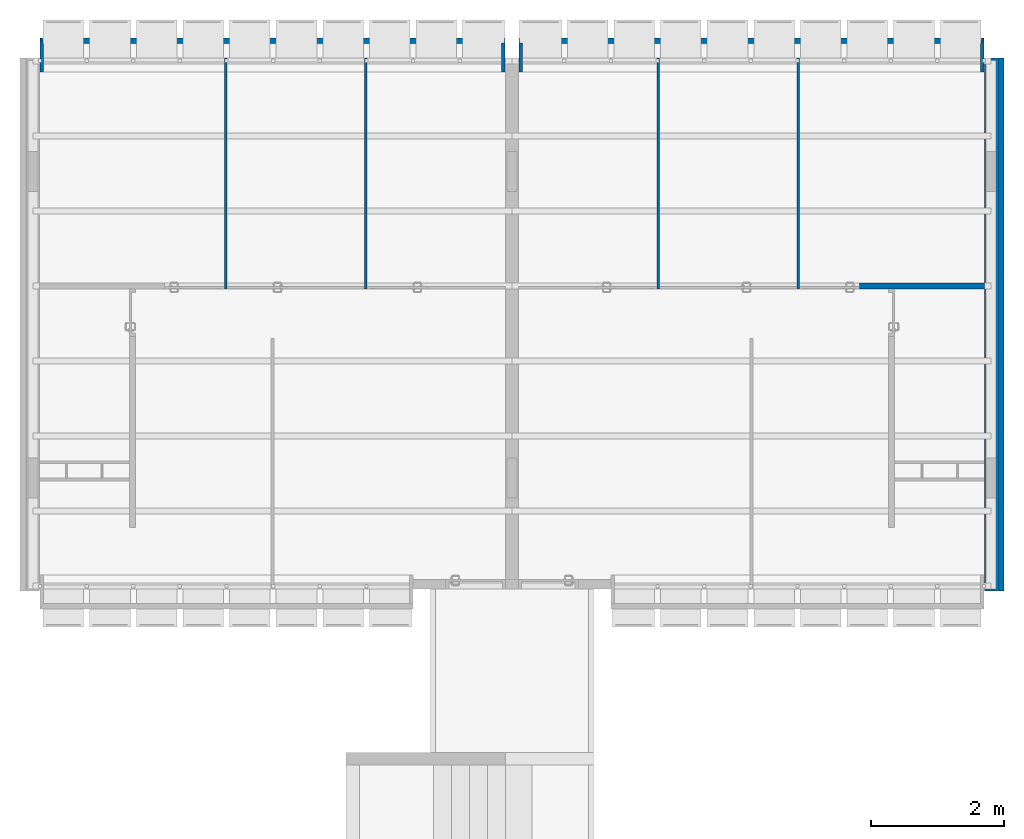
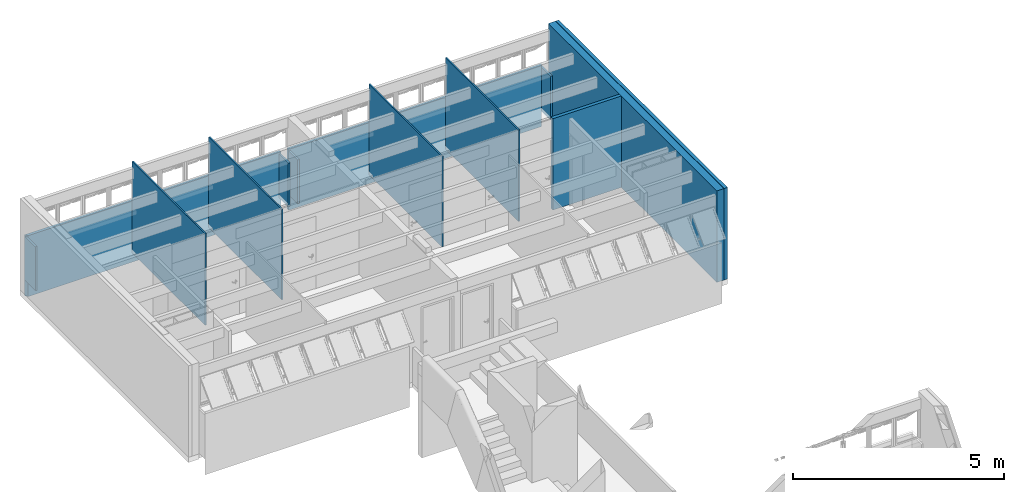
# One storey, part 40 of 41: 13 walls.
"""IFC4 building model written with IfcOpenShell, lengths in millimetres."""

from ifc_helpers import new_model, entity, si_unit, converted_unit, derived_unit, direction, frame, origin_with_axes, place, context, subcontext, project, spatial, line, indexed_curve, outline, extrude, material, layer, layer_set, layer_usage, type_object, element, save


model = new_model("IFC4")

# Units and contexts
model_context = context("Model", 3, precision=0.01, world=origin_with_axes(), true_north=direction((0.0, 1.0)))
body_context = subcontext(model_context, "Body", "Model", "MODEL_VIEW")
ifc_project = project(units=[si_unit("LENGTHUNIT", "METRE", prefix="MILLI"), si_unit("AREAUNIT", "SQUARE_METRE"), si_unit("VOLUMEUNIT", "CUBIC_METRE"), converted_unit("PLANEANGLEUNIT", "DEGREE", entity("IfcPlaneAngleMeasure", 0.0174532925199), si_unit("PLANEANGLEUNIT", "RADIAN"), dimensions=[0, 0, 0, 0, 0, 0, 0]), converted_unit("TIMEUNIT", "Year", entity("IfcTimeMeasure", 31556926.0), si_unit("TIMEUNIT", "SECOND"), dimensions=[0, 0, 1, 0, 0, 0, 0]), si_unit("MASSUNIT", "GRAM", prefix="KILO"), si_unit("THERMODYNAMICTEMPERATUREUNIT", "DEGREE_CELSIUS"), si_unit("LUMINOUSINTENSITYUNIT", "LUMEN"), si_unit("ENERGYUNIT", "JOULE", prefix="MEGA"), derived_unit("THERMALCONDUCTANCEUNIT", [(si_unit("POWERUNIT", "WATT"), 1), (si_unit("LENGTHUNIT", "METRE"), -1), (si_unit("THERMODYNAMICTEMPERATUREUNIT", "KELVIN"), -1)]), derived_unit("SPECIFICHEATCAPACITYUNIT", [(si_unit("ENERGYUNIT", "JOULE"), 1), (si_unit("MASSUNIT", "GRAM", prefix="KILO"), -1), (si_unit("THERMODYNAMICTEMPERATUREUNIT", "KELVIN"), -1)]), derived_unit("MASSDENSITYUNIT", [(si_unit("MASSUNIT", "GRAM", prefix="KILO"), 1), (si_unit("VOLUMEUNIT", "CUBIC_METRE"), -1)])], contexts=[model_context])

# Site, building, storey
site_placement = place(None, origin_with_axes())
site = spatial("IfcSite", under=ifc_project, at=site_placement, Name="Local", CompositionType="ELEMENT")
building_placement = place(site_placement, origin_with_axes())
building = spatial("IfcBuilding", under=site, at=building_placement, Name="Construção", CompositionType="ELEMENT")
storey_placement = place(building_placement, frame((0.0, 0.0, 2650.0), z_axis=(0.0, 0.0, 1.0), x_axis=(1.0, 0.0, 0.0)))
storey = spatial("IfcBuildingStorey", under=building, at=storey_placement, Name="Segundo Pavimento", CompositionType="ELEMENT", Elevation=2650.0)

# Walls
ifc_material_1 = material(Name="GENÉRICO - VEDAÇÃO EXTERNA")
ifc_layer_1 = layer(ifc_material_1, 190.0, ventilated="UNKNOWN", Name="GENÉRICO - VEDAÇÃO EXTERNA")
ifc_layer_set_1 = layer_set([ifc_layer_1], Name="GENÉRICO - VEDAÇÃO EXTERNA 190")
ifc_layer_usage_1 = layer_usage(ifc_layer_set_1, "AXIS2", "NEGATIVE", 0.0)
wall_type_1 = type_object("IfcWallType", Name="GENÉRICO - VEDAÇÃO EXTERNA 190", PredefinedType="NOTDEFINED")
wall_1_placement = place(storey_placement, frame((14480.0, 17860.0, 0.0), z_axis=(0.0, 0.0, 1.0), x_axis=(0.0, 1.0, 0.0)))
element("IfcWall", 1, at=wall_1_placement, inside=storey, type_object=wall_type_1, material=ifc_layer_usage_1, Name="APTO8-PAREDE-013", PredefinedType="NOTDEFINED", context=body_context, shape_type="SweptSolid", body=[
    extrude(outline(indexed_curve([(0.0, -190.0), (8000.0, -190.0), (8000.0, 0.0), (0.0, 0.0)], segments=[line(1, 2, 3, 4, 1)])), origin_with_axes(), (0.0, 0.0, 1.0), 2650.0),
])
ifc_layer_2 = layer(ifc_material_1, 40.0, ventilated="UNKNOWN", Name="GENÉRICO - VEDAÇÃO EXTERNA")
ifc_layer_set_2 = layer_set([ifc_layer_2], Name="GENÉRICO - VEDAÇÃO EXTERNA 40")
ifc_layer_usage_2 = layer_usage(ifc_layer_set_2, "AXIS2", "POSITIVE", 0.0)
wall_type_2 = type_object("IfcWallType", Name="GENÉRICO - VEDAÇÃO EXTERNA 40", PredefinedType="NOTDEFINED")
wall_2_placement = place(storey_placement, frame((5210.0, 22395.0, 0.0), z_axis=(0.0, 0.0, 1.0), x_axis=(0.0, 1.0, 0.0)))
element("IfcWall", 2, at=wall_2_placement, inside=storey, type_object=wall_type_2, material=ifc_layer_usage_2, Name="APTO7-PAREDE-005", PredefinedType="NOTDEFINED", context=body_context, shape_type="SweptSolid", body=[
    extrude(outline(indexed_curve([(0.0, 0.0), (3465.0, 0.0), (3465.0, 40.0), (0.0, 40.0)], segments=[line(1, 2, 3, 4, 1)])), origin_with_axes(), (0.0, 0.0, 1.0), 2620.0),
])
ifc_layer_usage_3 = layer_usage(ifc_layer_set_2, "AXIS2", "POSITIVE", 0.0)
wall_3_placement = place(storey_placement, frame((3110.0, 22395.0, 0.0), z_axis=(0.0, 0.0, 1.0), x_axis=(0.0, 1.0, 0.0)))
element("IfcWall", 3, at=wall_3_placement, inside=storey, type_object=wall_type_2, material=ifc_layer_usage_3, Name="APTO7-PAREDE-007", PredefinedType="NOTDEFINED", context=body_context, shape_type="SweptSolid", body=[
    extrude(outline(indexed_curve([(0.0, 0.0), (3465.0, 0.0), (3465.0, 40.0), (0.0, 40.0)], segments=[line(1, 2, 3, 4, 1)])), origin_with_axes(), (0.0, 0.0, 1.0), 2650.0),
])
ifc_layer_usage_4 = layer_usage(ifc_layer_set_2, "AXIS2", "NEGATIVE", 0.0)
wall_4_placement = place(storey_placement, frame((9560.0, 22395.0, 0.0), z_axis=(0.0, 0.0, 1.0), x_axis=(0.0, 1.0, 0.0)))
element("IfcWall", 4, at=wall_4_placement, inside=storey, type_object=wall_type_2, material=ifc_layer_usage_4, Name="APTO8-PAREDE-005", PredefinedType="NOTDEFINED", context=body_context, shape_type="SweptSolid", body=[
    extrude(outline(indexed_curve([(0.0, -40.0), (3465.0, -40.0), (3465.0, 0.0), (0.0, 0.0)], segments=[line(1, 2, 3, 4, 1)])), origin_with_axes(), (0.0, 0.0, 1.0), 2620.0),
])
ifc_layer_usage_5 = layer_usage(ifc_layer_set_2, "AXIS2", "NEGATIVE", 0.0)
wall_5_placement = place(storey_placement, frame((11660.0, 22395.0, 0.0), z_axis=(0.0, 0.0, 1.0), x_axis=(0.0, 1.0, 0.0)))
element("IfcWall", 5, at=wall_5_placement, inside=storey, type_object=wall_type_2, material=ifc_layer_usage_5, Name="APTO8-PAREDE-007", PredefinedType="NOTDEFINED", context=body_context, shape_type="SweptSolid", body=[
    extrude(outline(indexed_curve([(0.0, -40.0), (3465.0, -40.0), (3465.0, 0.0), (0.0, 0.0)], segments=[line(1, 2, 3, 4, 1)])), origin_with_axes(), (0.0, 0.0, 1.0), 2650.0),
])
ifc_layer_3 = layer(ifc_material_1, 90.0, ventilated="UNKNOWN", Name="GENÉRICO - VEDAÇÃO EXTERNA")
ifc_layer_set_3 = layer_set([ifc_layer_3], Name="GENÉRICO - VEDAÇÃO EXTERNA 90")
ifc_layer_usage_6 = layer_usage(ifc_layer_set_3, "AXIS2", "NEGATIVE", 0.0)
wall_type_3 = type_object("IfcWallType", Name="GENÉRICO - VEDAÇÃO EXTERNA 90", PredefinedType="NOTDEFINED")
wall_6_placement = place(storey_placement, frame((14480.0, 22394.7804333, 0.0), z_axis=(0.0, 0.0, 1.0), x_axis=(-1.0, 0.0, 0.0)))
element("IfcWall", 6, at=wall_6_placement, inside=storey, type_object=wall_type_3, material=ifc_layer_usage_6, Name="APTO8-PAREDE-019", PredefinedType="NOTDEFINED", context=body_context, shape_type="SweptSolid", body=[
    extrude(outline(indexed_curve([(0.0, -90.0), (1879.99807021, -90.0), (1880.0, 0.0), (0.0, 0.0)], segments=[line(1, 2, 3, 4, 1)])), origin_with_axes(), (0.0, 0.0, 1.0), 2650.0),
])
ifc_layer_usage_7 = layer_usage(ifc_layer_set_3, "AXIS2", "NEGATIVE", 0.0)
wall_7_placement = place(storey_placement, frame((14680.0, 17860.0, 0.0), z_axis=(0.0, 0.0, 1.0), x_axis=(0.0, 1.0, 0.0)))
element("IfcWall", 7, at=wall_7_placement, inside=storey, type_object=wall_type_3, material=ifc_layer_usage_7, Name="APTO8-PAREDE-014", PredefinedType="NOTDEFINED", context=body_context, shape_type="SweptSolid", body=[
    extrude(outline(indexed_curve([(0.0, -90.0), (8000.0, -90.0), (8000.0, 0.0), (0.0, 0.0)], segments=[line(1, 2, 3, 4, 1)])), origin_with_axes(), (0.0, 0.0, 1.0), 2650.0),
])
ifc_material_2 = material(Name="Concreto Armado Moldado in Loco - Estrutural")
ifc_layer_4 = layer(ifc_material_2, 50.0, ventilated="UNKNOWN", Name="Concreto Armado Moldado in Loco - Estrutural")
ifc_layer_set_4 = layer_set([ifc_layer_4], Name="Concreto Armado Moldado in Loco - Estrutural 50")
ifc_layer_usage_8 = layer_usage(ifc_layer_set_4, "AXIS2", "POSITIVE", -50.0)
wall_type_4 = type_object("IfcWallType", Name="Concreto Armado Moldado in Loco - Estrutural 50", PredefinedType="NOTDEFINED")
wall_8_placement = place(storey_placement, frame((300.0, 25650.0, 0.0), z_axis=(0.0, 0.0, 1.0), x_axis=(0.0, 1.0, 0.0)))
element("IfcWall", 8, at=wall_8_placement, inside=storey, type_object=wall_type_4, material=ifc_layer_usage_8, Name="APTO7-PAREDE-002", PredefinedType="NOTDEFINED", context=body_context, shape_type="SweptSolid", body=[
    extrude(outline(indexed_curve([(0.0, -50.0), (430.0, -50.0), (510.0, 0.0), (0.0, 0.0)], segments=[line(1, 2, 3, 4, 1)])), origin_with_axes(), (0.0, 0.0, 1.0), 1270.0),
])
ifc_layer_usage_9 = layer_usage(ifc_layer_set_4, "AXIS2", "POSITIVE", -50.0)
wall_9_placement = place(storey_placement, frame((7230.0, 25650.0, 0.0), z_axis=(0.0, 0.0, 1.0), x_axis=(0.0, 1.0, 0.0)))
element("IfcWall", 9, at=wall_9_placement, inside=storey, type_object=wall_type_4, material=ifc_layer_usage_9, Name="APTO7-PAREDE-001", PredefinedType="NOTDEFINED", context=body_context, shape_type="SweptSolid", body=[
    extrude(outline(indexed_curve([(0.0, -50.0), (435.0, -50.0), (435.0, 0.0), (0.0, 0.0)], segments=[line(1, 2, 3, 4, 1)])), origin_with_axes(), (0.0, 0.0, 1.0), 1270.0),
])
ifc_layer_usage_10 = layer_usage(ifc_layer_set_4, "AXIS2", "NEGATIVE", 50.0)
wall_10_placement = place(storey_placement, frame((14470.0, 25650.0, 0.0), z_axis=(0.0, 0.0, 1.0), x_axis=(0.0, 1.0, 0.0)))
element("IfcWall", 10, at=wall_10_placement, inside=storey, type_object=wall_type_4, material=ifc_layer_usage_10, Name="APTO8-PAREDE-002", PredefinedType="NOTDEFINED", context=body_context, shape_type="SweptSolid", body=[
    extrude(outline(indexed_curve([(0.0, 0.0), (510.0, 0.0), (430.0, 50.0), (0.0, 50.0)], segments=[line(1, 2, 3, 4, 1)])), origin_with_axes(), (0.0, 0.0, 1.0), 1270.0),
])
ifc_layer_usage_11 = layer_usage(ifc_layer_set_4, "AXIS2", "NEGATIVE", 50.0)
wall_11_placement = place(storey_placement, frame((7540.0, 25650.0, 0.0), z_axis=(0.0, 0.0, 1.0), x_axis=(0.0, 1.0, 0.0)))
element("IfcWall", 11, at=wall_11_placement, inside=storey, type_object=wall_type_4, material=ifc_layer_usage_11, Name="APTO8-PAREDE-001", PredefinedType="NOTDEFINED", context=body_context, shape_type="SweptSolid", body=[
    extrude(outline(indexed_curve([(0.0, 0.0), (435.0, 0.0), (435.0, 50.0), (0.0, 50.0)], segments=[line(1, 2, 3, 4, 1)])), origin_with_axes(), (0.0, 0.0, 1.0), 1270.0),
])
ifc_layer_5 = layer(ifc_material_2, 80.0, ventilated="UNKNOWN", Name="Concreto Armado Moldado in Loco - Estrutural")
ifc_layer_set_5 = layer_set([ifc_layer_5], Name="Concreto Armado Moldado in Loco - Estrutural 80")
ifc_layer_usage_12 = layer_usage(ifc_layer_set_5, "AXIS2", "NEGATIVE", 80.0)
wall_type_5 = type_object("IfcWallType", Name="Concreto Armado Moldado in Loco - Estrutural 80", PredefinedType="NOTDEFINED")
wall_12_placement = place(storey_placement, frame((300.0, 26080.0, -450.0), z_axis=(0.0, 0.0, 1.0), x_axis=(1.0, 0.0, 0.0)))
element("IfcWall", 12, at=wall_12_placement, inside=storey, type_object=wall_type_5, material=ifc_layer_usage_12, Name="APTO7-PAREDE-015", PredefinedType="NOTDEFINED", context=body_context, shape_type="SweptSolid", body=[
    extrude(outline(indexed_curve([(50.0, 0.0), (6980.0, 0.0), (6980.0, 80.0), (0.0, 80.0)], segments=[line(1, 2, 3, 4, 1)])), origin_with_axes(), (0.0, 0.0, 1.0), 1765.0),
])
ifc_layer_usage_13 = layer_usage(ifc_layer_set_5, "AXIS2", "POSITIVE", -80.0)
wall_13_placement = place(storey_placement, frame((14470.0, 26080.0, -450.0), z_axis=(0.0, 0.0, 1.0), x_axis=(-1.0, 0.0, 0.0)))
element("IfcWall", 13, at=wall_13_placement, inside=storey, type_object=wall_type_5, material=ifc_layer_usage_13, Name="APTO8-PAREDE-015", PredefinedType="NOTDEFINED", context=body_context, shape_type="SweptSolid", body=[
    extrude(outline(indexed_curve([(0.0, -80.0), (6980.0, -80.0), (6980.0, 0.0), (50.0, 0.0)], segments=[line(1, 2, 3, 4, 1)])), origin_with_axes(), (0.0, 0.0, 1.0), 1765.0),
])

save(model, "model.ifc")
